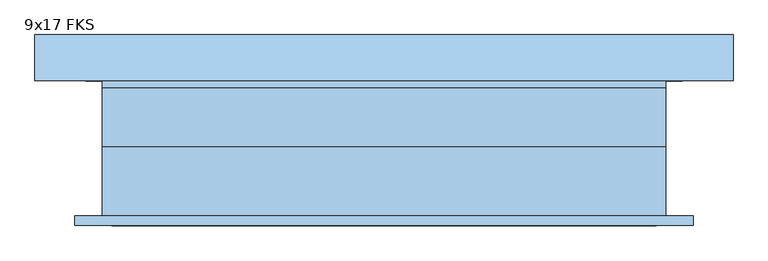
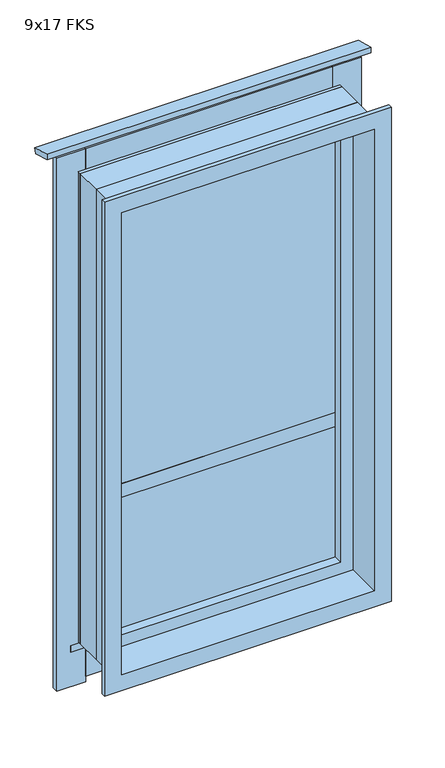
"""IFC4 building model written with IfcOpenShell, lengths in millimetres: window geometry, Vindu FKS 1x2-J : 9x17 FKS."""

from ifc_helpers import new_model, si_unit, frame, origin, place, context, project, spatial, polyline, outline, extrude, faceted_brep, source, transform, mapped, element, save


def window_9x17_fks_5456dc16(model_context):
    return source(origin(), model_context, "Body", "SolidModel", [
        extrude(outline(polyline([(179.444437, 2459.1537013), (174.5268751, 2440.8011106), (107.0, 2458.8948822), (107.0, 2478.5651297), (179.444437, 2459.1537013)])), frame((-551.0, 0.0, 0.0), z_axis=(1.0, 0.0, 0.0), x_axis=(0.0, 1.0, 0.0)), (0.0, 0.0, 1.0), 1102.0),
        extrude(outline(polyline([(155.2962913, 670.6791642), (149.6022723, 649.4287961), (107.0, 660.8440405), (107.0, 683.6201165), (155.2962913, 670.6791642)])), frame((-471.0, 0.0, 0.0), z_axis=(1.0, 0.0, 0.0), x_axis=(0.0, 1.0, 0.0)), (0.0, 0.0, 1.0), 942.0),
        extrude(outline(polyline([(-420.0, 107.0), (-420.0, 129.0), (420.0, 129.0), (420.0, 107.0), (-420.0, 107.0)])), frame((0.0, 0.0, 557.0051732), z_axis=(0.0, 0.0, 1.0), x_axis=(1.0, 0.0, 0.0)), (0.0, 0.0, 1.0), 98.0),
        extrude(outline(polyline([(-420.0, 107.0), (-420.0, 129.0), (420.0, 129.0), (420.0, 107.0), (-420.0, 107.0)])), frame((0.0, 0.0, 2355.0), z_axis=(0.0, 0.0, 1.0), x_axis=(1.0, 0.0, 0.0)), (0.0, 0.0, 1.0), 98.0),
        extrude(outline(polyline([(518.0, 107.0), (420.0, 107.0), (420.0, 129.0), (518.0, 129.0), (518.0, 107.0)])), frame((0.0, 0.0, 537.0), z_axis=(0.0, 0.0, 1.0), x_axis=(1.0, 0.0, 0.0)), (0.0, 0.0, 1.0), 1916.0),
        extrude(outline(polyline([(-420.0, 107.0), (-518.0, 107.0), (-518.0, 129.0), (-420.0, 129.0), (-420.0, 107.0)])), frame((0.0, 0.0, 537.0), z_axis=(0.0, 0.0, 1.0), x_axis=(1.0, 0.0, 0.0)), (0.0, 0.0, 1.0), 1916.0),
        extrude(outline(polyline([(1215.0, -406.0), (1215.0, 406.0), (1240.0, 406.0), (1265.0, 406.0), (1265.0, -406.0), (1215.0, -406.0)])), frame((0.0, 35.0, 0.0), z_axis=(0.0, 1.0, 0.0), x_axis=(0.0, 0.0, 1.0)), (0.0, 0.0, 1.0), 60.0),
        extrude(outline(polyline([(-406.0, 59.0), (406.0, 59.0), (406.0, 35.0), (-406.0, 35.0), (-406.0, 59.0)])), frame((0.0, 0.0, 729.0), z_axis=(0.0, 0.0, 1.0), x_axis=(1.0, 0.0, 0.0)), (0.0, 0.0, 1.0), 486.0),
        extrude(outline(polyline([(-406.0, 59.0), (406.0, 59.0), (406.0, 35.0), (-406.0, 35.0), (-406.0, 59.0)])), frame((0.0, 0.0, 1265.0), z_axis=(0.0, 0.0, 1.0), x_axis=(1.0, 0.0, 0.0)), (0.0, 0.0, 1.0), 1076.0),
        faceted_brep([(-445.0, 95.0, 690.0), (-445.0, 3.0, 690.0), (-445.0, 3.0, 2380.0), (-445.0, 95.0, 2380.0), (-406.0, 35.0, 729.0), (-406.0, 95.0, 729.0), (-406.0, 95.0, 2341.0), (-406.0, 35.0, 2341.0), (-388.0, 3.0, 747.0), (-388.0, 35.0, 747.0), (-388.0, 35.0, 2323.0), (-388.0, 3.0, 2323.0), (445.0, 3.0, 2380.0), (445.0, 95.0, 2380.0), (406.0, 95.0, 2341.0), (406.0, 35.0, 2341.0), (388.0, 35.0, 2323.0), (388.0, 3.0, 2323.0), (445.0, 3.0, 690.0), (445.0, 95.0, 690.0), (406.0, 95.0, 729.0), (406.0, 35.0, 729.0), (388.0, 35.0, 747.0), (388.0, 3.0, 747.0)], [[[0, 1, 2, 3]], [[4, 5, 6, 7]], [[8, 9, 10, 11]], [[3, 2, 12, 13]], [[7, 6, 14, 15]], [[11, 10, 16, 17]], [[13, 12, 18, 19]], [[15, 14, 20, 21]], [[17, 16, 22, 23]], [[19, 18, 1, 0]], [[3, 13, 19, 0], [5, 20, 14, 6]], [[21, 20, 5, 4]], [[7, 15, 21, 4], [9, 22, 16, 10]], [[23, 22, 9, 8]], [[1, 18, 12, 2], [11, 17, 23, 8]]]),
        extrude(outline(polyline([(690.0, 420.0), (690.0, 445.0), (2380.0, 445.0), (2380.0, -445.0), (690.0, -445.0), (690.0, -420.0), (2355.0, -420.0), (2355.0, 420.0), (690.0, 420.0)])), frame((0.0, 95.0, 0.0), z_axis=(0.0, 1.0, 0.0), x_axis=(0.0, 0.0, 1.0)), (0.0, 0.0, 1.0), 12.0),
        faceted_brep([(-445.0, -107.0, 690.0), (-445.0, 3.0, 690.0), (445.0, 3.0, 690.0), (445.0, -107.0, 690.0), (445.0, 3.0, 2380.0), (445.0, -107.0, 2380.0), (-445.0, 3.0, 2380.0), (430.0, 3.0, 2365.0), (-430.0, 3.0, 2365.0), (-430.0, 3.0, 705.0), (430.0, 3.0, 705.0), (488.0, -107.0, 647.0), (-488.0, -107.0, 647.0), (-488.0, -107.0, 2423.0), (488.0, -107.0, 2423.0), (-445.0, -107.0, 2380.0), (-488.0, -122.0, 647.0), (488.0, -122.0, 647.0), (488.0, -122.0, 2423.0), (-488.0, -122.0, 2423.0), (430.0, -122.0, 705.0), (-430.0, -122.0, 705.0), (-430.0, -122.0, 2365.0), (430.0, -122.0, 2365.0)], [[[0, 1, 2, 3]], [[3, 2, 4, 5]], [[2, 1, 6, 4], [7, 8, 9, 10]], [[11, 12, 13, 14], [5, 15, 0, 3]], [[16, 12, 11, 17]], [[17, 11, 14, 18]], [[18, 19, 16, 17], [20, 21, 22, 23]], [[9, 21, 20, 10]], [[10, 20, 23, 7]], [[15, 6, 1, 0]], [[19, 13, 12, 16]], [[8, 22, 21, 9]], [[5, 4, 6, 15]], [[18, 14, 13, 19]], [[7, 23, 22, 8]]]),
    ])


if __name__ == "__main__":
    model = new_model("IFC4")
    model_context = context("Model", 3, world=origin())
    ifc_project = project(units=[si_unit("LENGTHUNIT", "METRE", prefix="MILLI")], contexts=[model_context])
    site = spatial("IfcSite", under=ifc_project)
    building = spatial("IfcBuilding", under=site)
    placement = place(None, origin())
    window_9x17_fks_shape = window_9x17_fks_5456dc16(model_context)
    element("IfcWindow", 1, ObjectType="Vindu FKS 1x2-J : 9x17 FKS", at=placement, inside=building, context=model_context, shape_type="MappedRepresentation", body=[
        mapped(window_9x17_fks_shape, transform((0.0, 0.0, 0.0), x_axis=(1.0, 0.0, 0.0), y_axis=(0.0, 1.0, 0.0), z_axis=(0.0, 0.0, 1.0))),
    ])
    save(model, "model.ifc")
